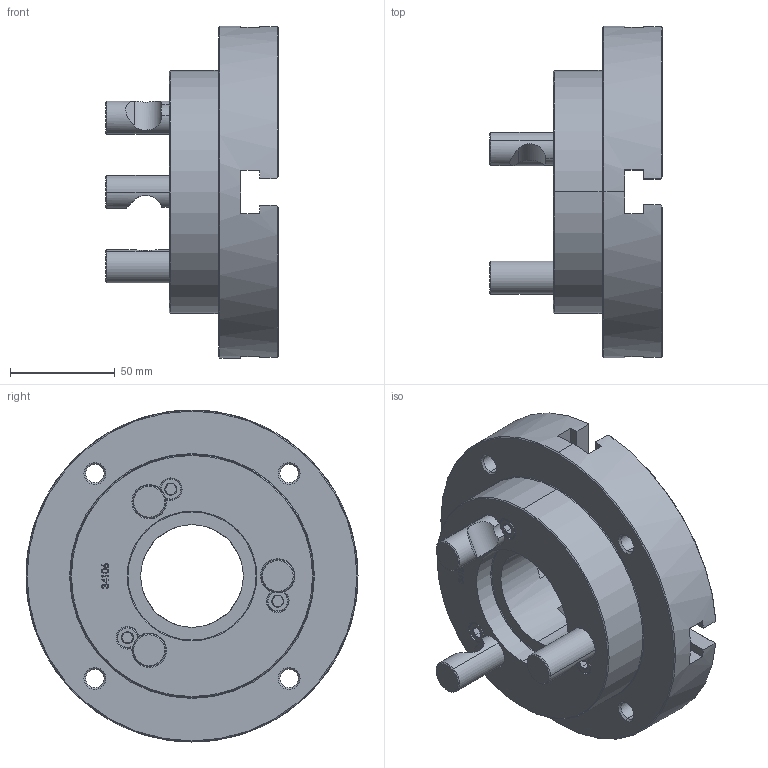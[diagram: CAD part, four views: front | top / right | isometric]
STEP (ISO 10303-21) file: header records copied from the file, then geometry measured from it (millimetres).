
FILE_DESCRIPTION (( 'STEP AP214' ), '1' );
FILE_NAME ('34106_6-INCH_FACE_PLATE_D1_TYPE.STEP', '2015-02-26T21:45:21', ( '' ), ( '' ), 'SwSTEP 2.0', 'SolidWorks 2012', '' );
FILE_SCHEMA (( 'AUTOMOTIVE_DESIGN' ));
Length unit declared in the file: millimetre
Products named in the file (4): 34106-3 SHCS M6 x 10_91290A316; 34106-2 MOUNTING STUD; 34106-1 FACE PLATE; 34106_6-INCH_FACE_PLATE_D1_TYPE
Assembly tree (7 placements, depth 2):
  34106_6-INCH_FACE_PLATE_D1_TYPE
    34106-1 FACE PLATE
    34106-2 MOUNTING STUD  x3
    34106-3 SHCS M6 x 10_91290A316  x3
Bounding box: 82.59 x 158.75 x 158.75 mm (x, y, z)
Volume: 644259 mm3; surface area: 93116.3 mm2
Topology: 7 solids, 7 shells, 495 faces, 1271 edges, 799 vertices
Faces by surface type: cylinder 187, plane 142, cone 124, bspline 38, torus 4
Entity records: 13627 total; most frequent: CARTESIAN_POINT 5600, ORIENTED_EDGE 1678, DIRECTION 1407, EDGE_CURVE 839, VERTEX_POINT 533, AXIS2_PLACEMENT_3D 518, VECTOR 371, LINE 371
